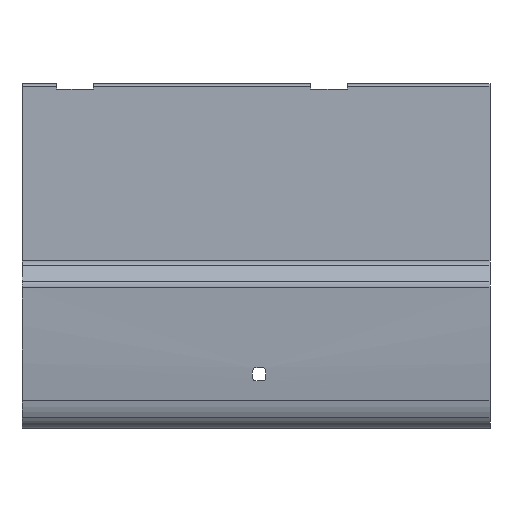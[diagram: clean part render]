
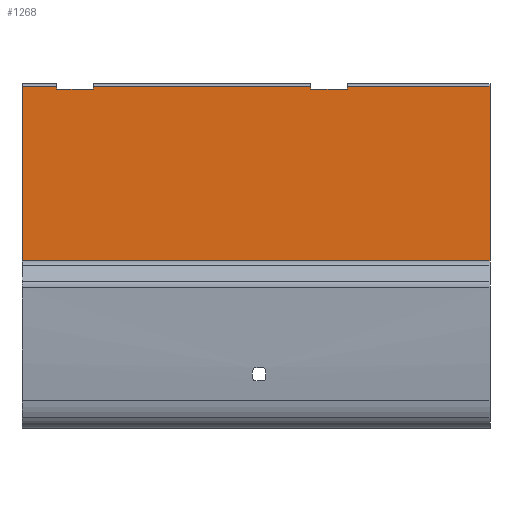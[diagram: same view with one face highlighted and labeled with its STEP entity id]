
A CAD part, front view. The second image highlights one B-rep face of the part: STEP entity #1268.
In plain terms, the highlighted planar face has unit normal (0, -1, -0.009).
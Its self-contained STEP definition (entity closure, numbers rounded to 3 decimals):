
#366=CARTESIAN_POINT('Vertex',(4060.622,-1246.091,536.332)) ;
#369=CARTESIAN_POINT('Line Origine',(4060.622,-1247.18,660.868)) ;
#373=CARTESIAN_POINT('Vertex',(4060.622,-1248.269,785.404)) ;
#667=CARTESIAN_POINT('Vertex',(4728.623,-1248.269,785.404)) ;
#670=CARTESIAN_POINT('Line Origine',(4728.623,-1247.18,660.868)) ;
#674=CARTESIAN_POINT('Vertex',(4728.623,-1246.091,536.332)) ;
#1171=CARTESIAN_POINT('Line Origine',(4228.623,-1248.269,785.404)) ;
#1175=CARTESIAN_POINT('Vertex',(4110.123,-1248.269,785.404)) ;
#1190=CARTESIAN_POINT('Axis2P3D Location',(4728.623,-1248.269,785.404)) ;
#1195=CARTESIAN_POINT('Line Origine',(4162.623,-1248.252,783.463)) ;
#1199=CARTESIAN_POINT('Vertex',(4162.623,-1248.235,781.523)) ;
#1201=CARTESIAN_POINT('Vertex',(4162.623,-1248.269,785.404)) ;
#1204=CARTESIAN_POINT('Line Origine',(4136.373,-1248.235,781.523)) ;
#1208=CARTESIAN_POINT('Vertex',(4110.123,-1248.235,781.523)) ;
#1211=CARTESIAN_POINT('Line Origine',(4110.123,-1248.252,783.463)) ;
#1216=CARTESIAN_POINT('Line Origine',(4394.623,-1246.091,536.332)) ;
#1221=CARTESIAN_POINT('Line Origine',(4626.873,-1248.269,785.404)) ;
#1225=CARTESIAN_POINT('Vertex',(4525.123,-1248.269,785.404)) ;
#1228=CARTESIAN_POINT('Line Origine',(4525.123,-1248.252,783.463)) ;
#1232=CARTESIAN_POINT('Vertex',(4525.123,-1248.235,781.523)) ;
#1235=CARTESIAN_POINT('Line Origine',(4498.873,-1248.235,781.523)) ;
#1239=CARTESIAN_POINT('Vertex',(4472.623,-1248.235,781.523)) ;
#1242=CARTESIAN_POINT('Line Origine',(4472.623,-1248.252,783.463)) ;
#1246=CARTESIAN_POINT('Vertex',(4472.623,-1248.269,785.404)) ;
#1249=CARTESIAN_POINT('Line Origine',(4317.623,-1248.269,785.404)) ;
#371=VECTOR('Line Direction',#370,1.) ;
#672=VECTOR('Line Direction',#671,1.) ;
#1173=VECTOR('Line Direction',#1172,1.) ;
#1197=VECTOR('Line Direction',#1196,1.) ;
#1206=VECTOR('Line Direction',#1205,1.) ;
#1213=VECTOR('Line Direction',#1212,1.) ;
#1218=VECTOR('Line Direction',#1217,1.) ;
#1223=VECTOR('Line Direction',#1222,1.) ;
#1230=VECTOR('Line Direction',#1229,1.) ;
#1237=VECTOR('Line Direction',#1236,1.) ;
#1244=VECTOR('Line Direction',#1243,1.) ;
#1251=VECTOR('Line Direction',#1250,1.) ;
#370=DIRECTION('Vector Direction',(0.,0.009,-1.)) ;
#671=DIRECTION('Vector Direction',(0.,0.009,-1.)) ;
#1172=DIRECTION('Vector Direction',(1.,0.,0.)) ;
#1191=DIRECTION('Axis2P3D Direction',(0.,1.,0.009)) ;
#1192=DIRECTION('Axis2P3D XDirection',(0.,0.009,-1.)) ;
#1196=DIRECTION('Vector Direction',(0.,-0.009,1.)) ;
#1205=DIRECTION('Vector Direction',(-1.,0.,0.)) ;
#1212=DIRECTION('Vector Direction',(0.,0.009,-1.)) ;
#1217=DIRECTION('Vector Direction',(-1.,0.,0.)) ;
#1222=DIRECTION('Vector Direction',(-1.,0.,0.)) ;
#1229=DIRECTION('Vector Direction',(0.,-0.009,1.)) ;
#1236=DIRECTION('Vector Direction',(-1.,0.,0.)) ;
#1243=DIRECTION('Vector Direction',(0.,0.009,-1.)) ;
#1250=DIRECTION('Vector Direction',(-1.,0.,0.)) ;
#1193=AXIS2_PLACEMENT_3D('Plane Axis2P3D',#1190,#1191,#1192) ;
#372=LINE('Line',#369,#371) ;
#673=LINE('Line',#670,#672) ;
#1174=LINE('Line',#1171,#1173) ;
#1198=LINE('Line',#1195,#1197) ;
#1207=LINE('Line',#1204,#1206) ;
#1214=LINE('Line',#1211,#1213) ;
#1219=LINE('Line',#1216,#1218) ;
#1224=LINE('Line',#1221,#1223) ;
#1231=LINE('Line',#1228,#1230) ;
#1238=LINE('Line',#1235,#1237) ;
#1245=LINE('Line',#1242,#1244) ;
#1252=LINE('Line',#1249,#1251) ;
#1194=PLANE('',#1193) ;
#375=EDGE_CURVE('',#374,#367,#372,.T.) ;
#676=EDGE_CURVE('',#668,#675,#673,.T.) ;
#1177=EDGE_CURVE('',#1176,#374,#1174,.F.) ;
#1203=EDGE_CURVE('',#1200,#1202,#1198,.T.) ;
#1210=EDGE_CURVE('',#1209,#1200,#1207,.F.) ;
#1215=EDGE_CURVE('',#1176,#1209,#1214,.T.) ;
#1220=EDGE_CURVE('',#675,#367,#1219,.T.) ;
#1227=EDGE_CURVE('',#668,#1226,#1224,.T.) ;
#1234=EDGE_CURVE('',#1233,#1226,#1231,.T.) ;
#1241=EDGE_CURVE('',#1240,#1233,#1238,.F.) ;
#1248=EDGE_CURVE('',#1247,#1240,#1245,.T.) ;
#1253=EDGE_CURVE('',#1247,#1202,#1252,.T.) ;
#1255=ORIENTED_EDGE('',*,*,#1203,.F.) ;
#1256=ORIENTED_EDGE('',*,*,#1210,.F.) ;
#1257=ORIENTED_EDGE('',*,*,#1215,.F.) ;
#1258=ORIENTED_EDGE('',*,*,#1177,.T.) ;
#1259=ORIENTED_EDGE('',*,*,#375,.T.) ;
#1260=ORIENTED_EDGE('',*,*,#1220,.F.) ;
#1261=ORIENTED_EDGE('',*,*,#676,.F.) ;
#1262=ORIENTED_EDGE('',*,*,#1227,.T.) ;
#1263=ORIENTED_EDGE('',*,*,#1234,.F.) ;
#1264=ORIENTED_EDGE('',*,*,#1241,.F.) ;
#1265=ORIENTED_EDGE('',*,*,#1248,.F.) ;
#1266=ORIENTED_EDGE('',*,*,#1253,.T.) ;
#1254=EDGE_LOOP('',(#1255,#1256,#1257,#1258,#1259,#1260,#1261,#1262,#1263,#1264,#1265,#1266)) ;
#367=VERTEX_POINT('',#366) ;
#374=VERTEX_POINT('',#373) ;
#668=VERTEX_POINT('',#667) ;
#675=VERTEX_POINT('',#674) ;
#1176=VERTEX_POINT('',#1175) ;
#1200=VERTEX_POINT('',#1199) ;
#1202=VERTEX_POINT('',#1201) ;
#1209=VERTEX_POINT('',#1208) ;
#1226=VERTEX_POINT('',#1225) ;
#1233=VERTEX_POINT('',#1232) ;
#1240=VERTEX_POINT('',#1239) ;
#1247=VERTEX_POINT('',#1246) ;
#1268=ADVANCED_FACE('bas de caisse ferme',(#1267),#1194,.F.) ;
#1267=FACE_OUTER_BOUND('',#1254,.T.) ;
